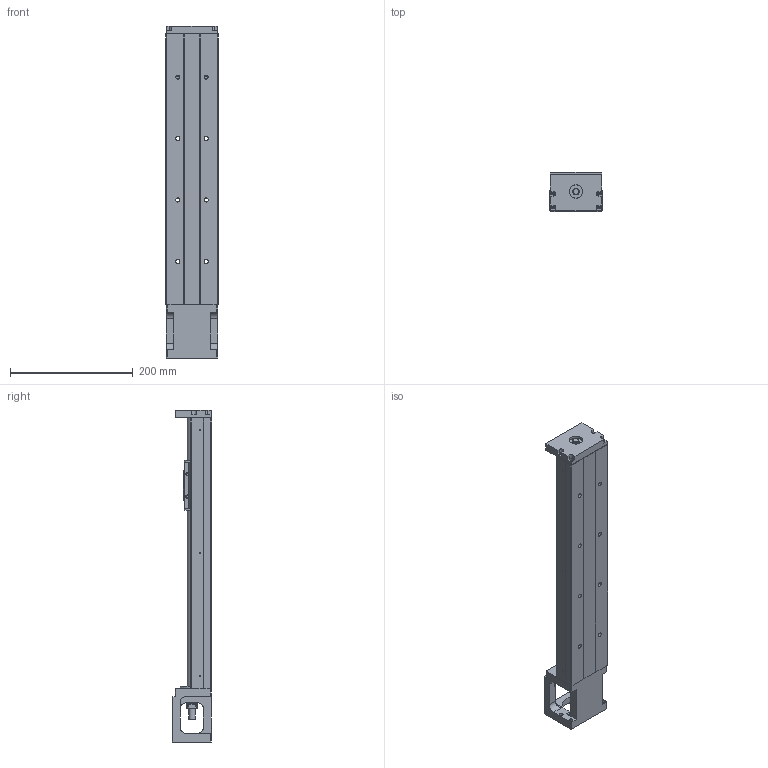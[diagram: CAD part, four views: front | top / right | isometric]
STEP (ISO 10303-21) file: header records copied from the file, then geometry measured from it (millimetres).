
FILE_DESCRIPTION(/* description */ (''),/* implementation_level */ '2;1');
FILE_NAME(/* name */ 'KP46S-440-D.stp',/* time_stamp */ '2020-06-05T10:19:44+08:00',/* author */ (''),/* organization */ (''),/* preprocessor_version */ 'ST-DEVELOPER v14',/* originating_system */ 'SIEMENS PLM Software NX 8.0',/* authorisation */ '');
FILE_SCHEMA (('AUTOMOTIVE_DESIGN { 1 0 10303 214 3 1 1 1 }'));
Length unit declared in the file: millimetre
Products named in the file (1): model1
Bounding box: 86 x 64 x 540 mm (x, y, z)
Volume: 1139730.3 mm3; surface area: 250861 mm2
Topology: 5 solids, 16 shells, 600 faces, 1583 edges, 1048 vertices
Faces by surface type: plane 280, cylinder 217, cone 54, bspline 41, torus 8
Full cylindrical faces by diameter (mm): 2 x2, 2.11 x2, 2.15 x6, 2.42 x6, 3 x4, 3.2 x4, 3.3 x8, 3.4 x8, 4 x2, 4.2 x4, 4.5 x8, 5 x6, 6 x8, 6.35 x2, 6.6 x7, 6.7 x2, 8.7 x4, 9.6 x1, 10 x4, 11 x8, 12 x1, 14.95 x2, 15 x1, 16 x2, 22 x3, 27.5 x1, 44 x1, 50 x1
Entity records: 28780 total; most frequent: CARTESIAN_POINT 12592, ORIENTED_EDGE 2722, DIRECTION 2628, EDGE_CURVE 1361, VERTEX_POINT 982, AXIS2_PLACEMENT_3D 981, EDGE_LOOP 843, LINE 666
